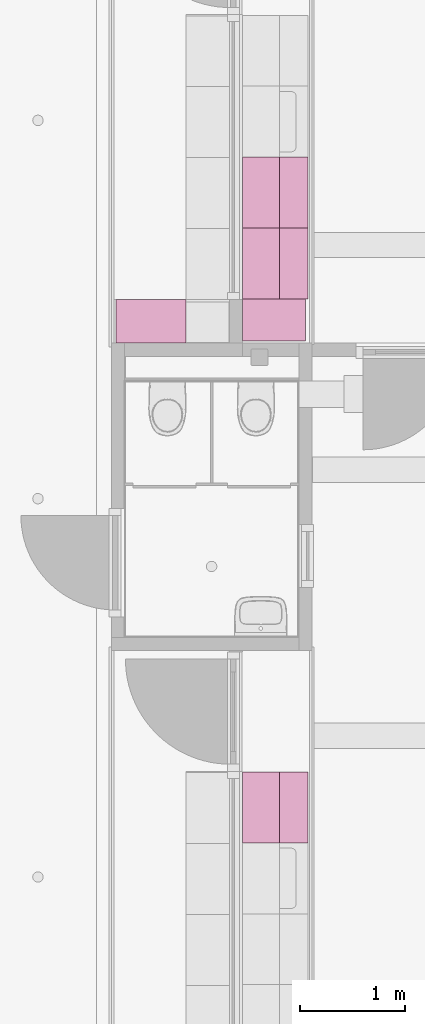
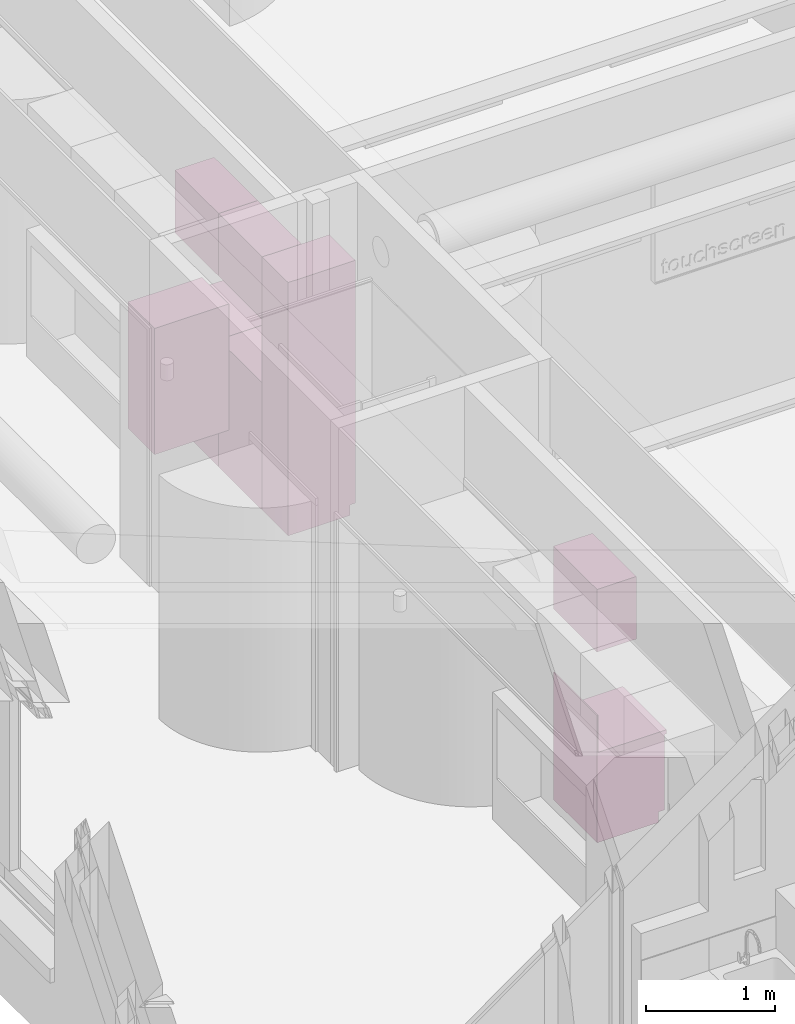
# One storey, part 85 of 128: 5 furnishings.
"""IFC2X3 building model written with IfcOpenShell, lengths in millimetres."""

from ifc_helpers import new_model, entity, si_unit, converted_unit, derived_unit, direction, frame, origin, origin_2d_with_axis, place, context, subcontext, project, spatial, polyline, rectangle, outline, extrude, source, transform, mapped, material, type_object, type_shapes, element, save


model = new_model("IFC2X3")

# Units and contexts
model_context = context("Model", 3, precision=0.01, world=origin(), true_north=direction((6.123031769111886e-17, 1.0)))
body_context = subcontext(model_context, "Body", "Model", "MODEL_VIEW")
ifc_project = project(units=[si_unit("LENGTHUNIT", "METRE", prefix="MILLI"), si_unit("AREAUNIT", "SQUARE_METRE"), si_unit("VOLUMEUNIT", "CUBIC_METRE"), converted_unit("PLANEANGLEUNIT", "DEGREE", entity("IfcRatioMeasure", 0.017453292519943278), si_unit("PLANEANGLEUNIT", "RADIAN"), dimensions=[0, 0, 0, 0, 0, 0, 0]), si_unit("MASSUNIT", "GRAM", prefix="KILO"), derived_unit("MASSDENSITYUNIT", [(si_unit("MASSUNIT", "GRAM", prefix="KILO"), 1), (si_unit("LENGTHUNIT", "METRE"), -3)]), derived_unit("IONCONCENTRATIONUNIT", [(si_unit("MASSUNIT", "GRAM", prefix="KILO"), 1), (si_unit("LENGTHUNIT", "METRE"), -3)]), derived_unit("MOMENTOFINERTIAUNIT", [(si_unit("LENGTHUNIT", "METRE"), 4)]), si_unit("TIMEUNIT", "SECOND"), si_unit("FREQUENCYUNIT", "HERTZ"), si_unit("THERMODYNAMICTEMPERATUREUNIT", "DEGREE_CELSIUS"), derived_unit("THERMALTRANSMITTANCEUNIT", [(si_unit("MASSUNIT", "GRAM", prefix="KILO"), 1), (si_unit("THERMODYNAMICTEMPERATUREUNIT", "KELVIN"), -1), (si_unit("TIMEUNIT", "SECOND"), -3)]), derived_unit("THERMALCONDUCTANCEUNIT", [(si_unit("MASSUNIT", "GRAM", prefix="KILO"), 1), (si_unit("THERMODYNAMICTEMPERATUREUNIT", "KELVIN"), -1), (si_unit("TIMEUNIT", "SECOND"), -3), (si_unit("LENGTHUNIT", "METRE"), 1)]), derived_unit("VOLUMETRICFLOWRATEUNIT", [(si_unit("LENGTHUNIT", "METRE"), 3), (si_unit("TIMEUNIT", "SECOND"), -1)]), derived_unit("MASSFLOWRATEUNIT", [(si_unit("MASSUNIT", "GRAM", prefix="KILO"), 1), (si_unit("TIMEUNIT", "SECOND"), -1)]), derived_unit("ROTATIONALFREQUENCYUNIT", [(si_unit("TIMEUNIT", "SECOND"), -1)]), si_unit("ELECTRICCURRENTUNIT", "AMPERE"), si_unit("ELECTRICVOLTAGEUNIT", "VOLT"), si_unit("POWERUNIT", "WATT"), si_unit("FORCEUNIT", "NEWTON", prefix="KILO"), si_unit("ILLUMINANCEUNIT", "LUX"), si_unit("LUMINOUSFLUXUNIT", "LUMEN"), si_unit("LUMINOUSINTENSITYUNIT", "CANDELA"), derived_unit("USERDEFINED", [(si_unit("MASSUNIT", "GRAM", prefix="KILO"), -1), (si_unit("LENGTHUNIT", "METRE"), -2), (si_unit("TIMEUNIT", "SECOND"), 3), (si_unit("LUMINOUSFLUXUNIT", "LUMEN"), 1)]), derived_unit("USERDEFINED", [(si_unit("MASSUNIT", "GRAM", prefix="KILO"), 1), (si_unit("TIMEUNIT", "SECOND"), -3), (si_unit("LENGTHUNIT", "METRE"), 3), (si_unit("ELECTRICCURRENTUNIT", "AMPERE"), -2)]), derived_unit("SOUNDPOWERUNIT", [(si_unit("MASSUNIT", "GRAM", prefix="KILO"), 1), (si_unit("TIMEUNIT", "SECOND"), -3), (si_unit("LENGTHUNIT", "METRE"), 2)]), derived_unit("SOUNDPRESSUREUNIT", [(si_unit("MASSUNIT", "GRAM", prefix="KILO"), 1), (si_unit("LENGTHUNIT", "METRE"), -1), (si_unit("TIMEUNIT", "SECOND"), -2)]), derived_unit("LINEARVELOCITYUNIT", [(si_unit("LENGTHUNIT", "METRE"), 1), (si_unit("TIMEUNIT", "SECOND"), -1)]), si_unit("PRESSUREUNIT", "PASCAL"), derived_unit("USERDEFINED", [(si_unit("MASSUNIT", "GRAM", prefix="KILO"), 1), (si_unit("LENGTHUNIT", "METRE"), -2), (si_unit("TIMEUNIT", "SECOND"), -2)]), derived_unit("LINEARFORCEUNIT", [(si_unit("MASSUNIT", "GRAM", prefix="KILO"), 1), (si_unit("TIMEUNIT", "SECOND"), -2)]), derived_unit("PLANARFORCEUNIT", [(si_unit("MASSUNIT", "GRAM", prefix="KILO"), 1), (si_unit("LENGTHUNIT", "METRE"), -1), (si_unit("TIMEUNIT", "SECOND"), -2)]), derived_unit("SPECIFICHEATCAPACITYUNIT", [(si_unit("THERMODYNAMICTEMPERATUREUNIT", "KELVIN"), -1), (si_unit("LENGTHUNIT", "METRE"), 2), (si_unit("TIMEUNIT", "SECOND"), -2)]), derived_unit("HEATINGVALUEUNIT", [(si_unit("LENGTHUNIT", "METRE"), 2), (si_unit("TIMEUNIT", "SECOND"), -2)]), derived_unit("VAPORPERMEABILITYUNIT", [(si_unit("LENGTHUNIT", "METRE"), -1), (si_unit("TIMEUNIT", "SECOND"), 1)]), derived_unit("DYNAMICVISCOSITYUNIT", [(si_unit("MASSUNIT", "GRAM", prefix="KILO"), 1), (si_unit("TIMEUNIT", "SECOND"), -1), (si_unit("LENGTHUNIT", "METRE"), -1)]), derived_unit("THERMALEXPANSIONCOEFFICIENTUNIT", [(si_unit("THERMODYNAMICTEMPERATUREUNIT", "KELVIN"), -1)]), derived_unit("MODULUSOFELASTICITYUNIT", [(si_unit("MASSUNIT", "GRAM", prefix="KILO"), 1), (si_unit("LENGTHUNIT", "METRE"), -1), (si_unit("TIMEUNIT", "SECOND"), -2)]), derived_unit("ISOTHERMALMOISTURECAPACITYUNIT", [(si_unit("LENGTHUNIT", "METRE"), 3), (si_unit("MASSUNIT", "GRAM", prefix="KILO"), -1)]), derived_unit("MOISTUREDIFFUSIVITYUNIT", [(si_unit("TIMEUNIT", "SECOND"), -1), (si_unit("LENGTHUNIT", "METRE"), 2)])], contexts=[model_context])

# Site, building, storey, space
site_placement = place(None, frame((0.0, 300.0, 0.0)))
site = spatial("IfcSite", under=ifc_project, at=site_placement, Name="<Kadastrale nummers>", CompositionType="ELEMENT")
building_placement = place(site_placement, origin())
building = spatial("IfcBuilding", under=site, at=building_placement, CompositionType="ELEMENT")
storey_placement = place(building_placement, frame((0.0, 0.0, 3560.0000331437)))
storey = spatial("IfcBuildingStorey", under=building, at=storey_placement, Name="01 eerste verdieping", CompositionType="ELEMENT", Elevation=3560.0000331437)
space_1_placement = place(storey_placement, origin())
space_1 = spatial("IfcSpace", under=storey, at=space_1_placement, Name="1.22", CompositionType="ELEMENT", InteriorOrExteriorSpace="INTERNAL")

# Furnishings
ifc_material = material(Name="ISR_HPL Kleur hout")
furniture_type_1 = type_object("IfcFurnitureType", Name="00_DAT Vaste inrichting Keukenkasten:Kast met Bovenkast 120 B675", material=ifc_material)
shared_shape_1 = source(origin(), body_context, "Body", "SweptSolid", [
    extrude(outline(polyline([(-615.5, 107.50000000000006), (-615.5, -442.4999999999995), (584.5, -442.4999999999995), (584.5, 177.49999999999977), (546.5, 177.49999999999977), (546.5, 157.49999999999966), (-515.5, 157.49999999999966), (-515.5, 107.50000000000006), (-615.5, 107.50000000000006)])), frame((0.0, 442.4999999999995, 615.5), z_axis=(-1.0, 0.0, 0.0), x_axis=(0.0, 0.0, 1.0)), (0.0, 0.0, -1.0), 675.0000000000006),
    extrude(rectangle(XDim=350.0, YDim=675.0000000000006, at=origin_2d_with_axis()), frame((337.5000000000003, 175.0, 1800.0), z_axis=(0.0, 0.0, 1.0), x_axis=(0.0, -1.0, 0.0)), (0.0, 0.0, 1.0), 590.0000000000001),
])
type_shapes(furniture_type_1, [shared_shape_1])
furnishing_1_placement = place(space_1_placement, frame((41240.0, 17729.99862327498, 90.00000187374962), z_axis=(0.0, 0.0, 1.0), x_axis=(0.0, -1.0, 0.0)))
element("IfcFurnishingElement", 1, at=furnishing_1_placement, inside=space_1, type_object=furniture_type_1, material=ifc_material, Name="00_DAT Vaste inrichting Keukenkasten:Kast met Bovenkast 120 B675", ObjectType="00_DAT Vaste inrichting Keukenkasten:Kast met Bovenkast 120 B675", context=body_context, shape_type="MappedRepresentation", body=[
    mapped(shared_shape_1, transform((0.0, 0.0, 0.0), scale=1.0)),
])
furniture_type_2 = type_object("IfcFurnitureType", Name="00_DAT Vaste inrichting Keukenkasten hoog:Hogekast Lokaal 400B", material=ifc_material)
shared_shape_2 = source(origin(), body_context, "Body", "SweptSolid", [
    extrude(outline(polyline([(-830.0, 166.66666666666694), (-830.0, -383.3333333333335), (1560.0, -383.3333333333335), (1560.0, 216.66666666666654), (-730.0, 216.66666666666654), (-730.0, 166.66666666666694), (-830.0, 166.66666666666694)])), frame((0.0, 383.3333333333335, 830.0), z_axis=(-1.0, 0.0, 0.0), x_axis=(0.0, 0.0, 1.0)), (0.0, 0.0, -1.0), 400.00000000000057),
])
type_shapes(furniture_type_2, [shared_shape_2])
furnishing_2_placement = place(space_1_placement, frame((41240.0, 17054.99862327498, 90.00000187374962), z_axis=(0.0, 0.0, 1.0), x_axis=(0.0, -1.0, 0.0)))
element("IfcFurnishingElement", 2, at=furnishing_2_placement, inside=space_1, type_object=furniture_type_2, material=ifc_material, Name="00_DAT Vaste inrichting Keukenkasten hoog:Hogekast Lokaal 400B", ObjectType="00_DAT Vaste inrichting Keukenkasten hoog:Hogekast Lokaal 400B", context=body_context, shape_type="MappedRepresentation", body=[
    mapped(shared_shape_2, transform((0.0, 0.0, 0.0), scale=1.0)),
])
furniture_type_3 = type_object("IfcFurnitureType", Name="00_DAT Vaste inrichting Keukenkasten:Kast met Bovenkast 120 B675", material=ifc_material)
shared_shape_3 = source(origin(), body_context, "Body", "SweptSolid", [
    extrude(outline(polyline([(-615.5, 107.50000000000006), (-615.5, -442.4999999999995), (584.5, -442.4999999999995), (584.5, 177.49999999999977), (546.5, 177.49999999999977), (546.5, 157.49999999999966), (-515.5, 157.49999999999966), (-515.5, 107.50000000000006), (-615.5, 107.50000000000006)])), frame((0.0, 442.4999999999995, 615.5), z_axis=(-1.0, 0.0, 0.0), x_axis=(0.0, 0.0, 1.0)), (0.0, 0.0, -1.0), 675.0000000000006),
    extrude(rectangle(XDim=350.0, YDim=675.0000000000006, at=origin_2d_with_axis()), frame((337.5000000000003, 175.0, 1800.0), z_axis=(0.0, 0.0, 1.0), x_axis=(0.0, -1.0, 0.0)), (0.0, 0.0, 1.0), 590.0000000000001),
])
type_shapes(furniture_type_3, [shared_shape_3])
furnishing_3_placement = place(space_1_placement, frame((41240.0, 18404.99862327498, 90.00000187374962), z_axis=(0.0, 0.0, 1.0), x_axis=(0.0, -1.0, 0.0)))
element("IfcFurnishingElement", 3, at=furnishing_3_placement, inside=space_1, type_object=furniture_type_3, material=ifc_material, Name="00_DAT Vaste inrichting Keukenkasten:Kast met Bovenkast 120 B675", ObjectType="00_DAT Vaste inrichting Keukenkasten:Kast met Bovenkast 120 B675", context=body_context, shape_type="MappedRepresentation", body=[
    mapped(shared_shape_3, transform((0.0, 0.0, 0.0), scale=1.0)),
])

# Space
space_2_placement = place(storey_placement, origin())
space_2 = spatial("IfcSpace", under=storey, at=space_2_placement, Name="1.23", CompositionType="ELEMENT", InteriorOrExteriorSpace="INTERNAL")

# Furnishing
furniture_type_4 = type_object("IfcFurnitureType", Name="00_DAT Vaste inrichting Keukenkasten:Kast met Bovenkast B675 H850", material=ifc_material)
shared_shape_4 = source(origin(), body_context, "Body", "SweptSolid", [
    extrude(rectangle(XDim=9.999999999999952, YDim=674.9999999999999, at=origin_2d_with_axis()), frame((337.49999999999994, 5.0, 850.0), z_axis=(0.0, 0.0, 1.0), x_axis=(0.0, -1.0, 0.0)), (0.0, 0.0, 1.0), 350.00000000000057),
    extrude(outline(polyline([(-440.5, 107.50000000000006), (-440.5, -442.4999999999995), (409.4999999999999, -442.4999999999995), (409.4999999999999, 177.49999999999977), (371.4999999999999, 177.49999999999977), (371.4999999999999, 157.49999999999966), (-340.4999999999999, 157.49999999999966), (-340.4999999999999, 107.50000000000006), (-440.5, 107.50000000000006)])), frame((0.0, 442.4999999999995, 440.5), z_axis=(-1.0, 0.0, 0.0), x_axis=(0.0, 0.0, 1.0)), (0.0, 0.0, -1.0), 675.0000000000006),
    extrude(rectangle(XDim=350.0, YDim=675.0000000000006, at=origin_2d_with_axis()), frame((337.5000000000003, 175.0, 1800.0), z_axis=(0.0, 0.0, 1.0), x_axis=(0.0, -1.0, 0.0)), (0.0, 0.0, 1.0), 590.0000000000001),
])
type_shapes(furniture_type_4, [shared_shape_4])
furnishing_4_placement = place(space_2_placement, frame((41240.0, 12554.998623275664, 90.00000187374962), z_axis=(0.0, 0.0, 1.0), x_axis=(0.0, -1.0, 0.0)))
element("IfcFurnishingElement", 4, at=furnishing_4_placement, inside=space_2, type_object=furniture_type_4, material=ifc_material, Name="00_DAT Vaste inrichting Keukenkasten:Kast met Bovenkast B675 H850", ObjectType="00_DAT Vaste inrichting Keukenkasten:Kast met Bovenkast B675 H850", context=body_context, shape_type="MappedRepresentation", body=[
    mapped(shared_shape_4, transform((0.0, 0.0, 0.0), scale=1.0)),
])

# Space
space_3_placement = place(storey_placement, origin())
space_3 = spatial("IfcSpace", under=storey, at=space_3_placement, Name="1.22a", CompositionType="ELEMENT", InteriorOrExteriorSpace="INTERNAL")

# Furnishing
furniture_type_5 = type_object("IfcFurnitureType", Name="00_DAT Vaste inrichting Boven Keukenkasten:Bovenkast Gaderobe B643 Hoog", material=ifc_material)
shared_shape_5 = source(origin(), body_context, "Body", "SweptSolid", [
    extrude(rectangle(XDim=663.0000000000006, YDim=415.0, at=origin_2d_with_axis()), frame((331.5000000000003, -207.5, 1200.0)), (0.0, 0.0, 1.0), 1189.9999999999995),
])
type_shapes(furniture_type_5, [shared_shape_5])
furnishing_5_placement = place(space_3_placement, frame((40700.0, 16634.997246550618, 90.00000187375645), z_axis=(0.0, 0.0, 1.0), x_axis=(-1.0, 0.0, 0.0)))
element("IfcFurnishingElement", 5, at=furnishing_5_placement, inside=space_3, type_object=furniture_type_5, material=ifc_material, Name="00_DAT Vaste inrichting Boven Keukenkasten:Bovenkast Gaderobe B643 Hoog", ObjectType="00_DAT Vaste inrichting Boven Keukenkasten:Bovenkast Gaderobe B643 Hoog", context=body_context, shape_type="MappedRepresentation", body=[
    mapped(shared_shape_5, transform((0.0, 0.0, 0.0), scale=1.0)),
])

save(model, "model.ifc")
